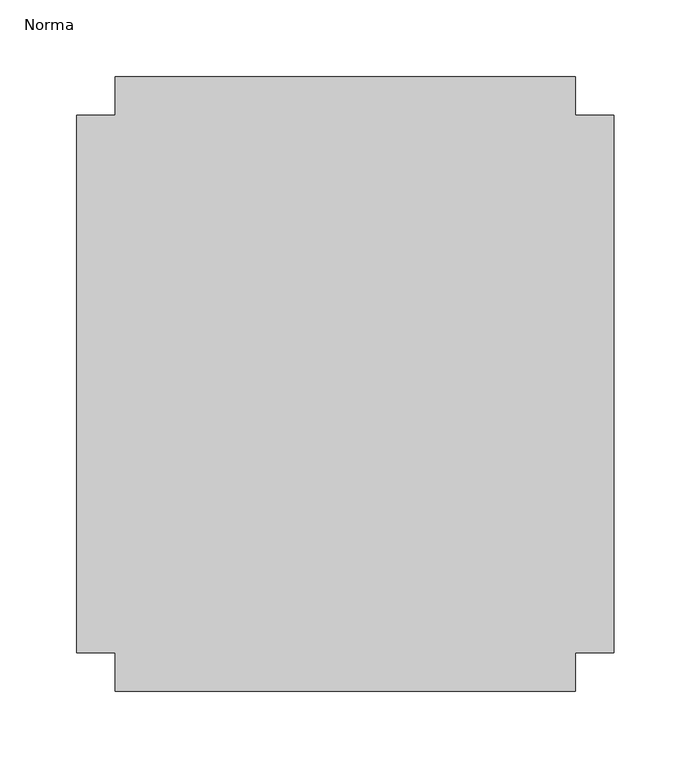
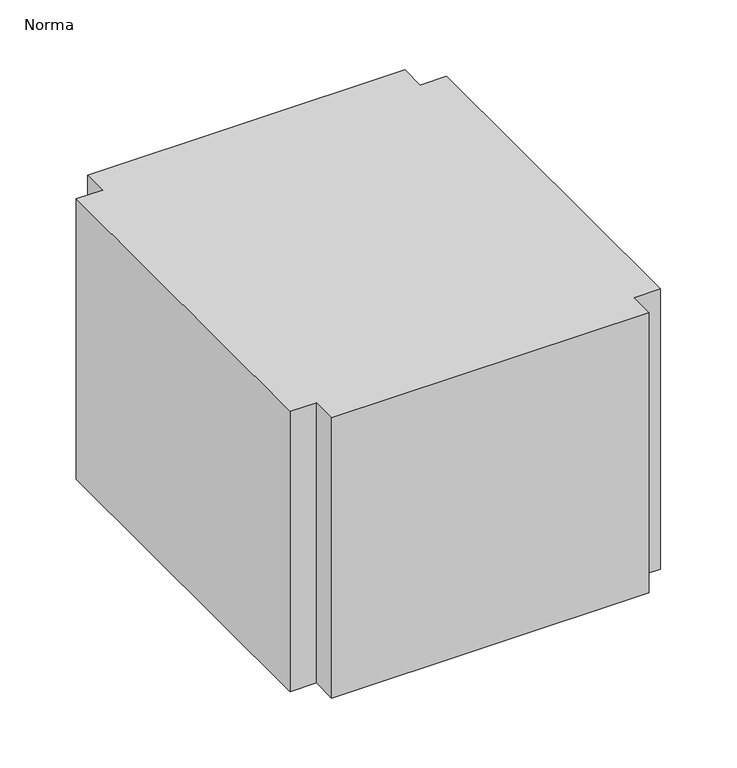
"""IFC4 building model written with IfcOpenShell, lengths in millimetres: duct fitting geometry, M_Cruz rectangular : Norma."""

from ifc_helpers import new_model, si_unit, frame, origin, place, context, project, spatial, polyline, outline, extrude, source, transform, mapped, element, save


def norma_0d3456c6(model_context):
    return source(origin(), model_context, "Body", "SweptSolid", [
        extrude(outline(polyline([(150.0, -200.0), (-150.0, -200.0), (-150.0, -175.0), (-175.0, -175.0), (-175.0, 175.0), (-150.0, 175.0), (-150.0, 200.0), (150.0, 200.0), (150.0, 175.0), (175.0, 175.0), (175.0, -175.0), (150.0, -175.0), (150.0, -200.0)])), frame((0.0, 0.0, -140.0), z_axis=(0.0, 0.0, 1.0), x_axis=(1.0, 0.0, 0.0)), (0.0, 0.0, 1.0), 280.0),
    ])


if __name__ == "__main__":
    model = new_model("IFC4")
    model_context = context("Model", 3, world=origin())
    ifc_project = project(units=[si_unit("LENGTHUNIT", "METRE", prefix="MILLI")], contexts=[model_context])
    site = spatial("IfcSite", under=ifc_project)
    building = spatial("IfcBuilding", under=site)
    placement = place(None, origin())
    norma_shape = norma_0d3456c6(model_context)
    element("IfcDuctFitting", 1, ObjectType="M_Cruz rectangular : Norma", at=placement, inside=building, context=model_context, shape_type="MappedRepresentation", body=[
        mapped(norma_shape, transform((0.0, 0.0, 0.0), x_axis=(1.0, 0.0, 0.0), y_axis=(0.0, 1.0, 0.0), z_axis=(0.0, 0.0, 1.0))),
    ])
    save(model, "model.ifc")
